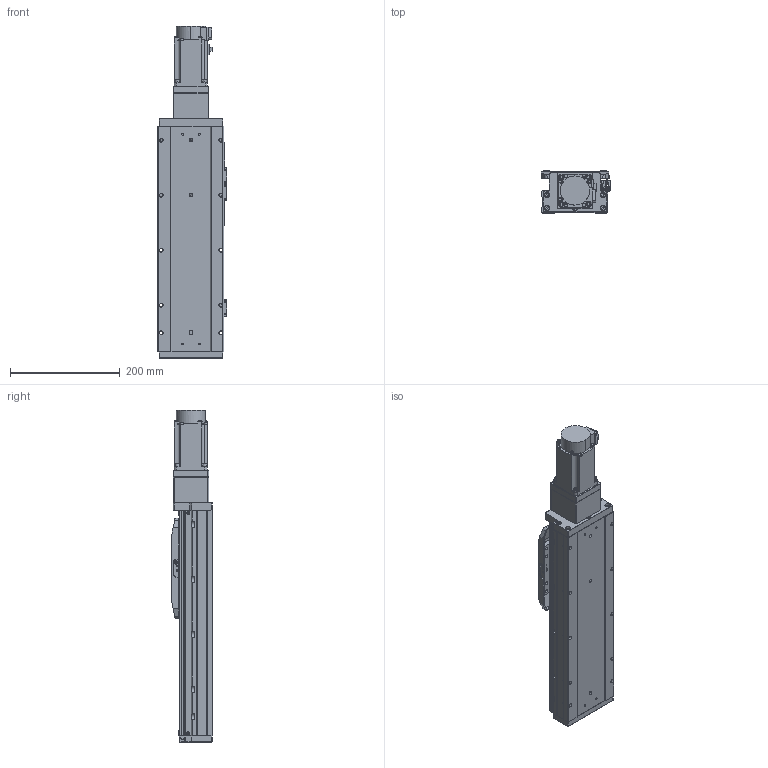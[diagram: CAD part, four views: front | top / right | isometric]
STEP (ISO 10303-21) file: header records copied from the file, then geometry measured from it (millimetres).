
FILE_DESCRIPTION (( 'STEP AP203' ), '1' );
FILE_NAME ('GTH12-200-BC-M40-C4.step', '2022-09-23T01:13:50', ( '微软用户' ), ( '微软中国' ), 'SwSTEP 2.0', 'SolidWorks 2020', '' );
FILE_SCHEMA (( 'CONFIG_CONTROL_DESIGN' ));
Length unit declared in the file: millimetre
Products named in the file (19): GTH80-028; CTHA86-027; GTH120-004; GTH50-023; hg-kn43j_-s100_; GTH120-013; GTH50-024; GTH12-200-BC-M40-C4; GBT 70.1-M3℅6; GBT96.1-2002 3×0.8; GBT 70.1-M5×16; BTH-M3X5X6; GTH120-001_200; GBT 70.3-M3℅8; CTHA86-006-1_CTHA86-006-2; GTH120-003; GTH80-022; CTHA86-013; GTH120-006
Assembly tree (62 placements, depth 2):
  GTH12-200-BC-M40-C4
    GTH120-001_200
    GTH120-003
    GTH120-006
    GTH120-004
    GTH120-013
    GBT 70.1-M3℅6  x14
    GBT 70.1-M5×16  x10
    GBT 70.3-M3℅8  x6
    GTH80-022
    GTH80-028  x2
    GTH50-023  x3
    GTH50-024  x3
    GBT96.1-2002 3×0.8  x6
    BTH-M3X5X6  x8
    CTHA86-006-1_CTHA86-006-2
    CTHA86-013
    CTHA86-027
    hg-kn43j_-s100_
Bounding box: 125.7 x 76 x 603.7 mm (x, y, z)
Volume: 3747514.4 mm3; surface area: 423522.3 mm2
Topology: 64 solids, 64 shells, 2372 faces, 5469 edges, 3329 vertices
Faces by surface type: plane 1224, cylinder 655, cone 315, torus 170, sphere 8
Entity records: 41426 total; most frequent: DIRECTION 6887, CARTESIAN_POINT 6618, ORIENTED_EDGE 6320, EDGE_CURVE 3160, AXIS2_PLACEMENT_3D 2407, LINE 2073, VECTOR 2073, VERTEX_POINT 1988
